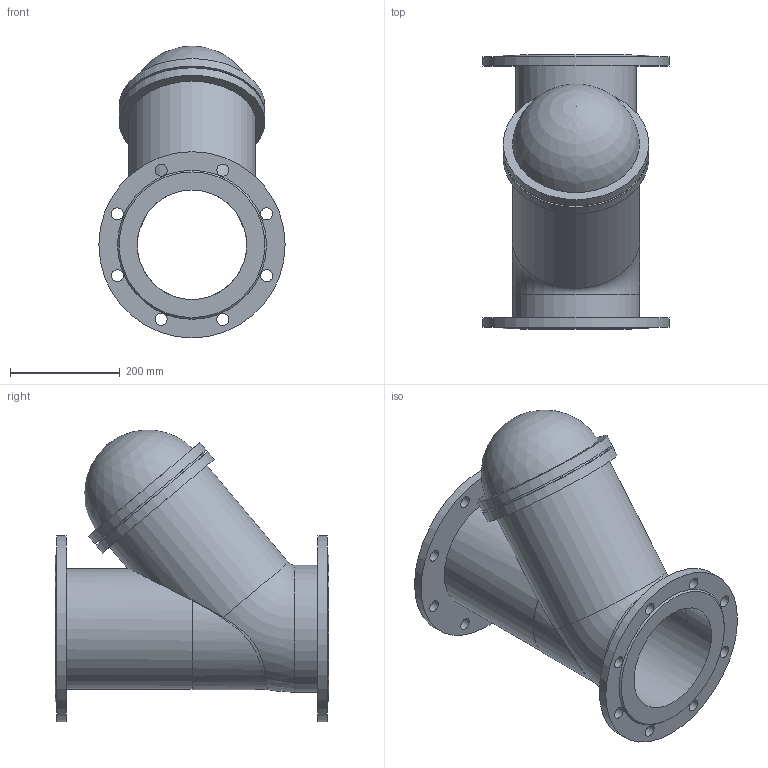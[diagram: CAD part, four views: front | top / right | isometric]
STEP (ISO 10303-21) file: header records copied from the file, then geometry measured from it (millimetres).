
FILE_DESCRIPTION(('STEP AP203'), '1');
FILE_NAME('Êëàïàí îáðàòíûé øàðîâîé ôëàíöåâîé 012F DN200', '', ('UNSPECIFIED'), ('UNSPECIFIED'), 'ASCON STEP Converter 1.6', 'ASCON Math Kernel', '');
FILE_SCHEMA(('CONFIG_CONTROL_DESIGN'));
Length unit declared in the file: millimetre
Bounding box: 340 x 500 x 532.82 mm (x, y, z)
Volume: 11928498.5 mm3; surface area: 1298159.8 mm2
Topology: 1 solids, 1 shells, 51 faces, 123 edges, 80 vertices
Faces by surface type: cylinder 31, plane 14, torus 3, cone 2, sphere 1
Full cylindrical faces by diameter (mm): 22 x16, 200 x2, 220 x1, 232 x2, 252 x1, 266 x2, 340 x2
Entity records: 2553 total; most frequent: CARTESIAN_POINT 958, DIRECTION 242, ORIENTED_EDGE 182, EDGE_LOOP 124, AXIS2_PLACEMENT_3D 121, EDGE_CURVE 91, VERTEX_POINT 79, FACE_BOUND 69
